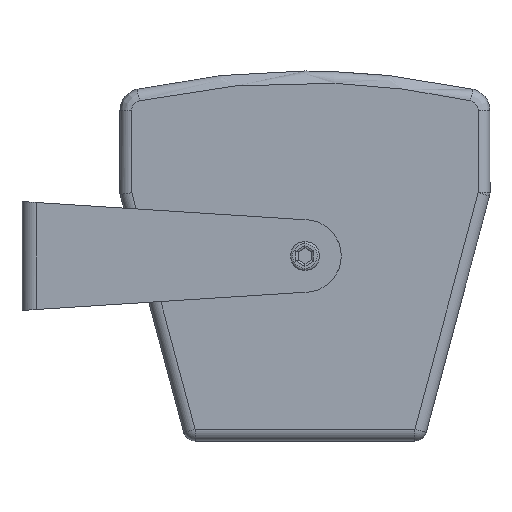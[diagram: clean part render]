
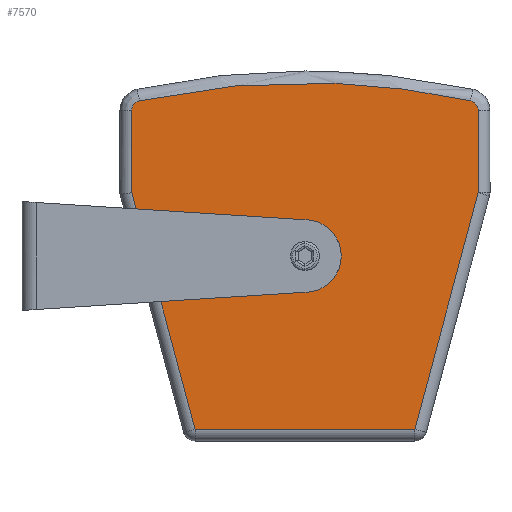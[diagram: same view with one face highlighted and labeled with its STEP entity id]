
A CAD part, left-side view. The second image highlights one B-rep face of the part: STEP entity #7570.
In plain terms, the highlighted planar face has unit normal (-1, 0, 0).
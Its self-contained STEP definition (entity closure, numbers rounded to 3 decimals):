
#91 = CARTESIAN_POINT ( 'NONE',  ( 22.535, 102., -102. ) ) ;
#92 = AXIS2_PLACEMENT_3D ( 'NONE', #91, #152, #151 ) ;
#93 = CIRCLE ( 'NONE', #92, 10. ) ;
#114 = DIRECTION ( 'NONE',  ( 0., 0., -1. ) ) ;
#115 = DIRECTION ( 'NONE',  ( 1., 0., 0. ) ) ;
#117 = CARTESIAN_POINT ( 'NONE',  ( 22.535, 12.273, -204. ) ) ;
#118 = AXIS2_PLACEMENT_3D ( 'NONE', #117, #115, #114 ) ;
#119 = PLANE ( 'NONE',  #118 ) ;
#120 = FACE_BOUND ( 'NONE', #7595, .T. ) ;
#121 = FACE_OUTER_BOUND ( 'NONE', #7568, .T. ) ;
#151 = DIRECTION ( 'NONE',  ( 0., 0., 1. ) ) ;
#152 = DIRECTION ( 'NONE',  ( -1., 0., 0. ) ) ;
#5615 = DIRECTION ( 'NONE',  ( 0., 0., 1. ) ) ;
#5616 = DIRECTION ( 'NONE',  ( -1., 0., 0. ) ) ;
#5617 = CARTESIAN_POINT ( 'NONE',  ( 22.535, 102., -102. ) ) ;
#5618 = AXIS2_PLACEMENT_3D ( 'NONE', #5617, #5616, #5615 ) ;
#5619 = CIRCLE ( 'NONE', #5618, 10. ) ;
#5621 = CARTESIAN_POINT ( 'NONE',  ( 22.535, 102., -92. ) ) ;
#5639 = CARTESIAN_POINT ( 'NONE',  ( 22.535, 102., -112. ) ) ;
#7241 = VERTEX_POINT ( 'NONE', #11695 ) ;
#7251 = VERTEX_POINT ( 'NONE', #11689 ) ;
#7285 = VERTEX_POINT ( 'NONE', #11759 ) ;
#7371 = VERTEX_POINT ( 'NONE', #11966 ) ;
#7418 = EDGE_CURVE ( 'NONE', #7371, #7241, #12079, .T. ) ;
#7485 = VERTEX_POINT ( 'NONE', #12168 ) ;
#7492 = EDGE_CURVE ( 'NONE', #7285, #7251, #12151, .T. ) ;
#7497 = EDGE_CURVE ( 'NONE', #7241, #7285, #12203, .T. ) ;
#7507 = EDGE_CURVE ( 'NONE', #7251, #7509, #12186, .T. ) ;
#7509 = VERTEX_POINT ( 'NONE', #12182 ) ;
#7514 = VERTEX_POINT ( 'NONE', #12217 ) ;
#7515 = EDGE_CURVE ( 'NONE', #7485, #7514, #12215, .T. ) ;
#7516 = VERTEX_POINT ( 'NONE', #12216 ) ;
#7528 = EDGE_CURVE ( 'NONE', #7509, #7485, #12208, .T. ) ;
#7548 = EDGE_CURVE ( 'NONE', #7514, #7516, #12254, .T. ) ;
#7555 = EDGE_CURVE ( 'NONE', #7516, #7371, #12279, .T. ) ;
#7558 = ORIENTED_EDGE ( 'NONE', *, *, #7528, .F. ) ;
#7562 = ORIENTED_EDGE ( 'NONE', *, *, #7515, .F. ) ;
#7568 = EDGE_LOOP ( 'NONE', ( #7569, #7562, #7558, #7590, #7582, #7583, #7584, #7591 ) ) ;
#7569 = ORIENTED_EDGE ( 'NONE', *, *, #7548, .F. ) ;
#7570 = ADVANCED_FACE ( 'NONE', ( #121, #120 ), #119, .F. ) ;
#7582 = ORIENTED_EDGE ( 'NONE', *, *, #7492, .F. ) ;
#7583 = ORIENTED_EDGE ( 'NONE', *, *, #7497, .F. ) ;
#7584 = ORIENTED_EDGE ( 'NONE', *, *, #7418, .F. ) ;
#7588 = ORIENTED_EDGE ( 'NONE', *, *, #12393, .F. ) ;
#7590 = ORIENTED_EDGE ( 'NONE', *, *, #7507, .F. ) ;
#7591 = ORIENTED_EDGE ( 'NONE', *, *, #7555, .F. ) ;
#7594 = EDGE_CURVE ( 'NONE', #12392, #12402, #93, .T. ) ;
#7595 = EDGE_LOOP ( 'NONE', ( #7596, #7588 ) ) ;
#7596 = ORIENTED_EDGE ( 'NONE', *, *, #7594, .F. ) ;
#11689 = CARTESIAN_POINT ( 'NONE',  ( 22.535, 197.5, -41.429 ) ) ;
#11695 = CARTESIAN_POINT ( 'NONE',  ( 22.535, 67.144, -197.5 ) ) ;
#11759 = CARTESIAN_POINT ( 'NONE',  ( 22.535, 197.5, -162.571 ) ) ;
#11966 = CARTESIAN_POINT ( 'NONE',  ( 22.535, 21.804, -197.5 ) ) ;
#12076 = DIRECTION ( 'NONE',  ( 0., 1., 0. ) ) ;
#12077 = VECTOR ( 'NONE', #12076, 1000. ) ;
#12078 = CARTESIAN_POINT ( 'NONE',  ( 22.535, 12.273, -197.5 ) ) ;
#12079 = LINE ( 'NONE', #12078, #12077 ) ;
#12149 = VECTOR ( 'NONE', #12204, 1000. ) ;
#12150 = CARTESIAN_POINT ( 'NONE',  ( 22.535, 197.5, -204. ) ) ;
#12151 = LINE ( 'NONE', #12150, #12149 ) ;
#12168 = CARTESIAN_POINT ( 'NONE',  ( 22.535, 21.804, -6.5 ) ) ;
#12182 = CARTESIAN_POINT ( 'NONE',  ( 22.535, 67.144, -6.5 ) ) ;
#12183 = DIRECTION ( 'NONE',  ( 0., -0.966, 0.259 ) ) ;
#12184 = VECTOR ( 'NONE', #12183, 1000. ) ;
#12185 = CARTESIAN_POINT ( 'NONE',  ( 22.535, 197.5, -41.429 ) ) ;
#12186 = LINE ( 'NONE', #12185, #12184 ) ;
#12200 = DIRECTION ( 'NONE',  ( 0., 0.966, 0.259 ) ) ;
#12201 = VECTOR ( 'NONE', #12200, 1000. ) ;
#12202 = CARTESIAN_POINT ( 'NONE',  ( 22.535, 67.144, -197.5 ) ) ;
#12203 = LINE ( 'NONE', #12202, #12201 ) ;
#12204 = DIRECTION ( 'NONE',  ( 0., 0., 1. ) ) ;
#12205 = DIRECTION ( 'NONE',  ( 0., -1., 0. ) ) ;
#12206 = VECTOR ( 'NONE', #12205, 1000. ) ;
#12207 = CARTESIAN_POINT ( 'NONE',  ( 22.535, 12.273, -6.5 ) ) ;
#12208 = LINE ( 'NONE', #12207, #12206 ) ;
#12211 = CARTESIAN_POINT ( 'NONE',  ( 22.535, 16.433, -10.816 ) ) ;
#12212 = CARTESIAN_POINT ( 'NONE',  ( 22.535, 17.013, -8.186 ) ) ;
#12213 = CARTESIAN_POINT ( 'NONE',  ( 22.535, 19.112, -6.5 ) ) ;
#12214 = CARTESIAN_POINT ( 'NONE',  ( 22.535, 21.804, -6.5 ) ) ;
#12215 =( BOUNDED_CURVE ( )  B_SPLINE_CURVE ( 3, ( #12214, #12213, #12212, #12211 ),
 .UNSPECIFIED., .F., .T. ) 
 B_SPLINE_CURVE_WITH_KNOTS ( ( 4, 4 ),
 ( 0., 1. ),
 .UNSPECIFIED. ) 
 CURVE ( )  GEOMETRIC_REPRESENTATION_ITEM ( )  RATIONAL_B_SPLINE_CURVE ( ( 1., 0.853, 0.853, 1. ) ) 
 REPRESENTATION_ITEM ( '' )  );
#12216 = CARTESIAN_POINT ( 'NONE',  ( 22.535, 16.433, -193.184 ) ) ;
#12217 = CARTESIAN_POINT ( 'NONE',  ( 22.535, 16.433, -10.816 ) ) ;
#12250 = CARTESIAN_POINT ( 'NONE',  ( 22.535, 16.433, -193.184 ) ) ;
#12251 = CARTESIAN_POINT ( 'NONE',  ( 22.535, 3.136, -132.878 ) ) ;
#12252 = CARTESIAN_POINT ( 'NONE',  ( 22.535, 3.136, -71.122 ) ) ;
#12253 = CARTESIAN_POINT ( 'NONE',  ( 22.535, 16.433, -10.816 ) ) ;
#12254 =( BOUNDED_CURVE ( )  B_SPLINE_CURVE ( 3, ( #12253, #12252, #12251, #12250 ),
 .UNSPECIFIED., .F., .T. ) 
 B_SPLINE_CURVE_WITH_KNOTS ( ( 4, 4 ),
 ( 0., 1. ),
 .UNSPECIFIED. ) 
 CURVE ( )  GEOMETRIC_REPRESENTATION_ITEM ( )  RATIONAL_B_SPLINE_CURVE ( ( 1., 0.984, 0.984, 1. ) ) 
 REPRESENTATION_ITEM ( '' )  );
#12275 = CARTESIAN_POINT ( 'NONE',  ( 22.535, 21.804, -197.5 ) ) ;
#12276 = CARTESIAN_POINT ( 'NONE',  ( 22.535, 19.112, -197.5 ) ) ;
#12277 = CARTESIAN_POINT ( 'NONE',  ( 22.535, 17.013, -195.814 ) ) ;
#12278 = CARTESIAN_POINT ( 'NONE',  ( 22.535, 16.433, -193.184 ) ) ;
#12279 =( BOUNDED_CURVE ( )  B_SPLINE_CURVE ( 3, ( #12278, #12277, #12276, #12275 ),
 .UNSPECIFIED., .F., .T. ) 
 B_SPLINE_CURVE_WITH_KNOTS ( ( 4, 4 ),
 ( 0., 1. ),
 .UNSPECIFIED. ) 
 CURVE ( )  GEOMETRIC_REPRESENTATION_ITEM ( )  RATIONAL_B_SPLINE_CURVE ( ( 1., 0.853, 0.853, 1. ) ) 
 REPRESENTATION_ITEM ( '' )  );
#12392 = VERTEX_POINT ( 'NONE', #5621 ) ;
#12393 = EDGE_CURVE ( 'NONE', #12402, #12392, #5619, .T. ) ;
#12402 = VERTEX_POINT ( 'NONE', #5639 ) ;
